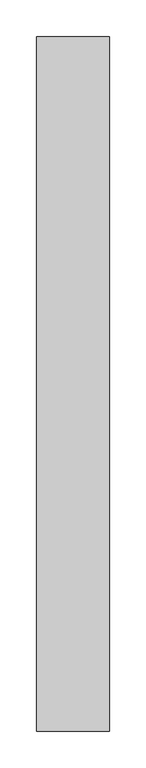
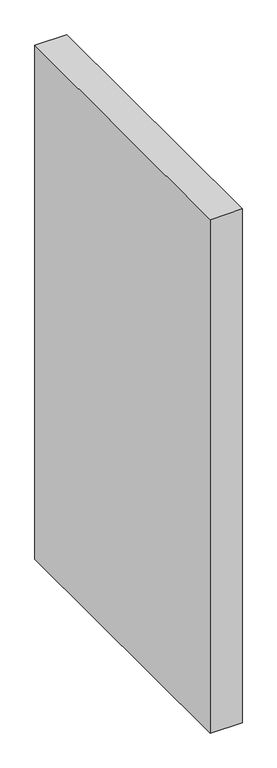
"""IFC4 building model written with IfcOpenShell, lengths in millimetres: proxy geometry."""

from ifc_helpers import new_model, si_unit, frame, origin, place, context, project, spatial, polyline, outline, extrude, source, transform, mapped, element, save


def generic_models_dfc40ed8(model_context):
    return source(origin(), model_context, "Body", "SweptSolid", [
        extrude(outline(polyline([(5017.5, 50.0), (4917.5, 50.0), (4917.5, 1000.0), (5017.5, 1000.0), (5017.5, 50.0)])), frame((0.0, 0.0, 800.0), z_axis=(0.0, 0.0, 1.0), x_axis=(1.0, 0.0, 0.0)), (0.0, 0.0, 1.0), 1700.0),
    ])


if __name__ == "__main__":
    model = new_model("IFC4")
    model_context = context("Model", 3, world=origin())
    ifc_project = project(units=[si_unit("LENGTHUNIT", "METRE", prefix="MILLI")], contexts=[model_context])
    site = spatial("IfcSite", under=ifc_project)
    building = spatial("IfcBuilding", under=site)
    placement = place(None, origin())
    generic_models_shape = generic_models_dfc40ed8(model_context)
    element("IfcBuildingElementProxy", 1, Name="Generic Models", at=placement, inside=building, context=model_context, shape_type="MappedRepresentation", body=[
        mapped(generic_models_shape, transform((0.0, 0.0, 0.0), x_axis=(1.0, 0.0, 0.0), y_axis=(0.0, 1.0, 0.0), z_axis=(0.0, 0.0, 1.0))),
    ])
    save(model, "model.ifc")
